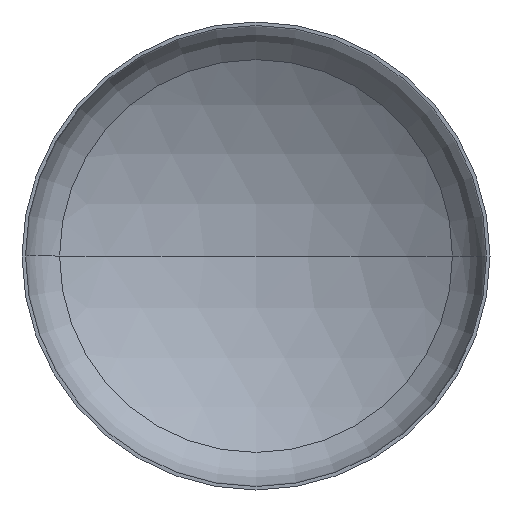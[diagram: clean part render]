
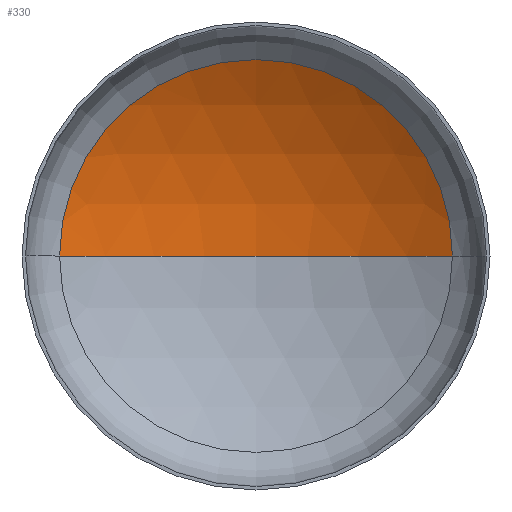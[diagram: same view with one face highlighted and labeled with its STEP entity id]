
A CAD part, front view. The second image highlights one B-rep face of the part: STEP entity #330.
In plain terms, the highlighted spherical face has radius 1280 mm.
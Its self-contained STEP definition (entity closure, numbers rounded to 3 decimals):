
#1 = AXIS2_PLACEMENT_3D ( 'NONE', #58, #226, #398 ) ;
#7 = ORIENTED_EDGE ( 'NONE', *, *, #387, .F. ) ;
#19 = VERTEX_POINT ( 'NONE', #270 ) ;
#22 = AXIS2_PLACEMENT_3D ( 'NONE', #190, #106, #351 ) ;
#26 = AXIS2_PLACEMENT_3D ( 'NONE', #224, #148, #348 ) ;
#27 = AXIS2_PLACEMENT_3D ( 'NONE', #124, #120, #121 ) ;
#58 = CARTESIAN_POINT ( 'NONE',  ( 0., -841.122, 0. ) ) ;
#106 = DIRECTION ( 'NONE',  ( 0., 0., -1. ) ) ;
#120 = DIRECTION ( 'NONE',  ( 0., -1., 0. ) ) ;
#121 = DIRECTION ( 'NONE',  ( 1., 0., 0. ) ) ;
#124 = CARTESIAN_POINT ( 'NONE',  ( 0., 248.575, 0. ) ) ;
#135 = SPHERICAL_SURFACE ( 'NONE', #22, 1280. ) ;
#148 = DIRECTION ( 'NONE',  ( 0., 0., -1. ) ) ;
#152 = VERTEX_POINT ( 'NONE', #276 ) ;
#173 = CARTESIAN_POINT ( 'NONE',  ( -671.536, 248.575, 0. ) ) ;
#178 = ORIENTED_EDGE ( 'NONE', *, *, #322, .T. ) ;
#190 = CARTESIAN_POINT ( 'NONE',  ( 0., -841.122, 0. ) ) ;
#211 = VERTEX_POINT ( 'NONE', #173 ) ;
#224 = CARTESIAN_POINT ( 'NONE',  ( 0., -841.122, 0. ) ) ;
#226 = DIRECTION ( 'NONE',  ( 0., 0., 1. ) ) ;
#232 = FACE_OUTER_BOUND ( 'NONE', #301, .T. ) ;
#270 = CARTESIAN_POINT ( 'NONE',  ( 0., 438.878, 0. ) ) ;
#276 = CARTESIAN_POINT ( 'NONE',  ( 671.536, 248.575, 0. ) ) ;
#295 = CIRCLE ( 'NONE', #26, 1280. ) ;
#301 = EDGE_LOOP ( 'NONE', ( #7, #362, #178 ) ) ;
#322 = EDGE_CURVE ( 'NONE', #152, #211, #365, .T. ) ;
#325 = EDGE_CURVE ( 'NONE', #19, #152, #295, .T. ) ;
#330 = ADVANCED_FACE ( 'NONE', ( #232 ), #135, .F. ) ;
#339 = CIRCLE ( 'NONE', #1, 1280. ) ;
#348 = DIRECTION ( 'NONE',  ( -1., 0., 0. ) ) ;
#351 = DIRECTION ( 'NONE',  ( -1., 0., 0. ) ) ;
#362 = ORIENTED_EDGE ( 'NONE', *, *, #325, .T. ) ;
#365 = CIRCLE ( 'NONE', #27, 671.536 ) ;
#387 = EDGE_CURVE ( 'NONE', #19, #211, #339, .T. ) ;
#398 = DIRECTION ( 'NONE',  ( 1., 0., 0. ) ) ;
